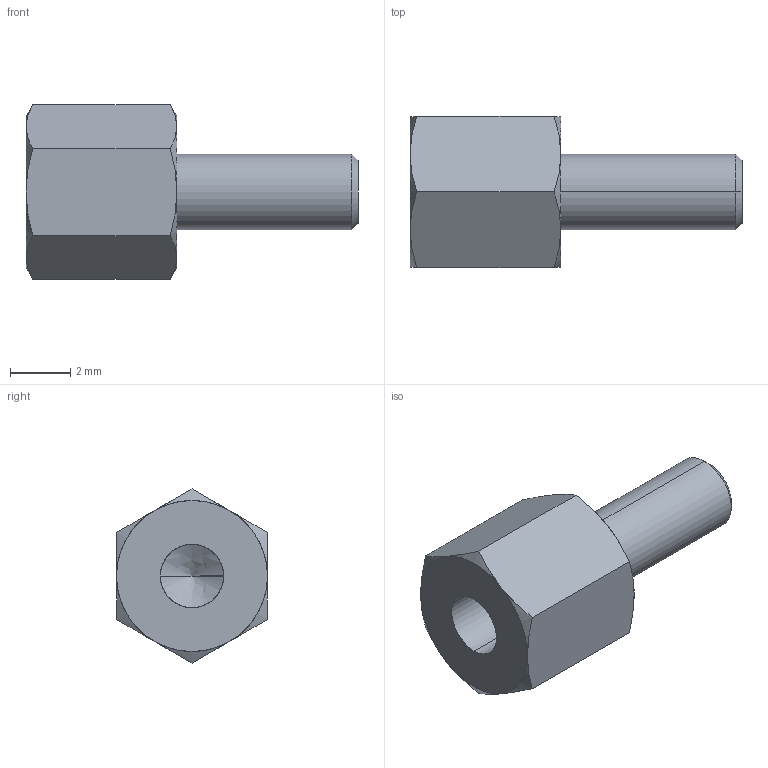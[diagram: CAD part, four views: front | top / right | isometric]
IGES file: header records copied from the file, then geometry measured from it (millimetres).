
Start section: SolidWorks IGES file using analytic representation for surfaces
Global section: file name: C:\Users\render1\Desktop\P0185_IGES\P0185.025-05.igs; native system: SolidWorks 2009; preprocessor: SolidWorks 2009; author: render1; date: 130627.111436; units: millimetre
Bounding box: 11 x 5 x 5.77 mm (x, y, z)
Surface area: 191.1 mm2 (no closed solid volume)
Topology: 0 solids, 0 shells, 29 faces, 324 edges, 322 vertices
Faces by surface type: revolution 20, bspline 9
